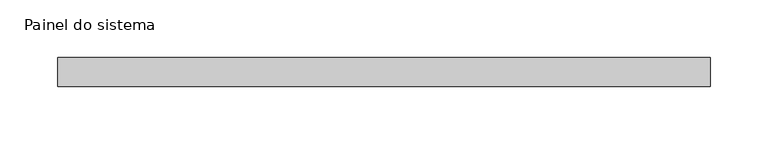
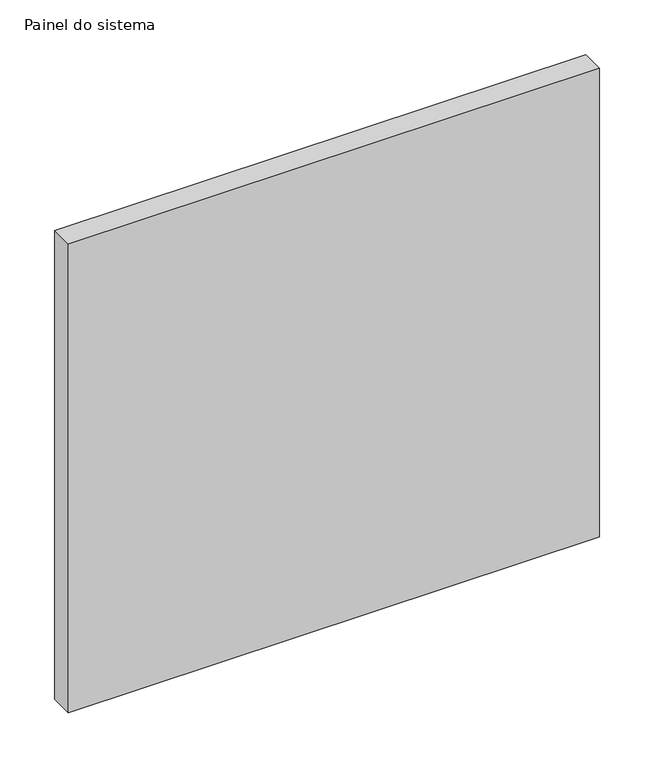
"""IFC4 building model written with IfcOpenShell, lengths in millimetres: plate geometry, Painel do sistema : Envidraçado."""

from ifc_helpers import new_model, si_unit, origin, origin_with_axes, place, context, project, spatial, polyline, outline, extrude, source, transform, mapped, element, save


def painel_do_sistema_6a1fedca(model_context):
    return source(origin(), model_context, "Body", "SweptSolid", [
        extrude(outline(polyline([(281.25, 24.5), (-281.25, 24.5), (-281.25, 49.5), (281.25, 49.5), (281.25, 24.5)])), origin_with_axes(), (0.0, 0.0, 1.0), 525.0),
    ])


if __name__ == "__main__":
    model = new_model("IFC4")
    model_context = context("Model", 3, world=origin())
    ifc_project = project(units=[si_unit("LENGTHUNIT", "METRE", prefix="MILLI")], contexts=[model_context])
    site = spatial("IfcSite", under=ifc_project)
    building = spatial("IfcBuilding", under=site)
    placement = place(None, origin())
    painel_do_sistema_shape = painel_do_sistema_6a1fedca(model_context)
    element("IfcPlate", 1, ObjectType="Painel do sistema : Envidraçado", at=placement, inside=building, context=model_context, shape_type="MappedRepresentation", body=[
        mapped(painel_do_sistema_shape, transform((0.0, 0.0, 0.0), x_axis=(1.0, 0.0, 0.0), y_axis=(0.0, 1.0, 0.0), z_axis=(0.0, 0.0, 1.0))),
    ])
    save(model, "model.ifc")
